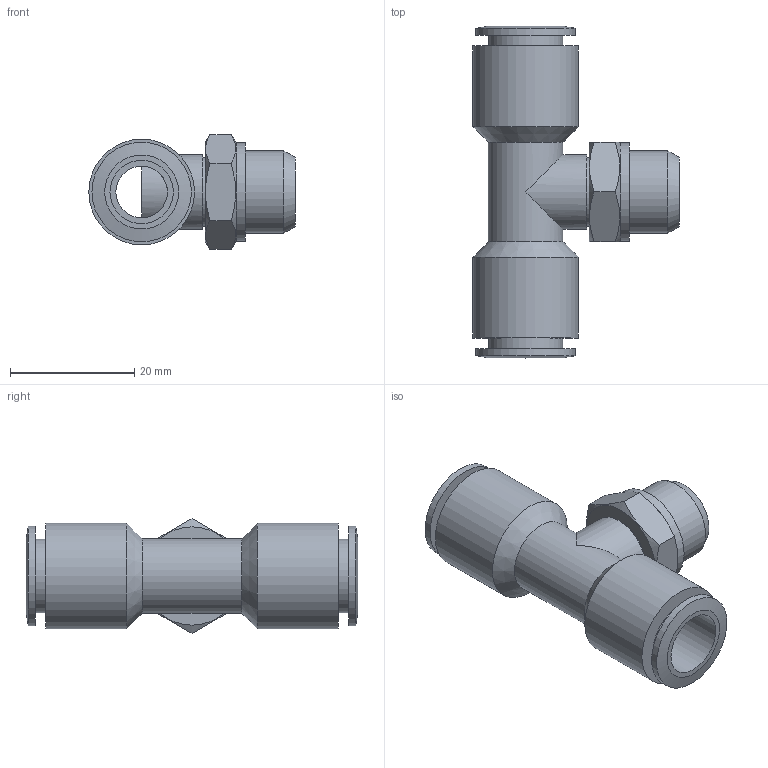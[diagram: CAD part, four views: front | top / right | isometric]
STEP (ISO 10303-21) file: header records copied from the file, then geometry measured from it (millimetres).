
FILE_DESCRIPTION((''),'2;1');
FILE_NAME('C:\Documents and Settings\rivolro1\Documenti\copia di Raccordi\PLASTICA\T20XXXX\T201014.stp','2007-10-31T15:26:58',('Rivolro1'),(''),'Autodesk Inventor 2008','Autodesk Inventor 2008','');
FILE_SCHEMA(('AUTOMOTIVE_DESIGN { 1 0 10303 214 1 1 1 1 }'));
Length unit declared in the file: millimetre
Products named in the file (1): T201014
Bounding box: 33.2 x 53.4 x 18.48 mm (x, y, z)
Volume: 8250.2 mm3; surface area: 6542.6 mm2
Topology: 1 solids, 1 shells, 45 faces, 92 edges, 59 vertices
Faces by surface type: plane 17, cylinder 16, cone 8, bspline 4
Full cylindrical faces by diameter (mm): 6 x1, 8.3 x1, 11 x1, 11.2 x1, 11.9 x2, 12 x2, 13.2 x1, 15.8 x1, 16 x2, 17 x2
Entity records: 1191 total; most frequent: CARTESIAN_POINT 296, DIRECTION 170, ORIENTED_EDGE 122, EDGE_LOOP 84, AXIS2_PLACEMENT_3D 81, EDGE_CURVE 61, VERTEX_POINT 53, FACE_OUTER_BOUND 45
